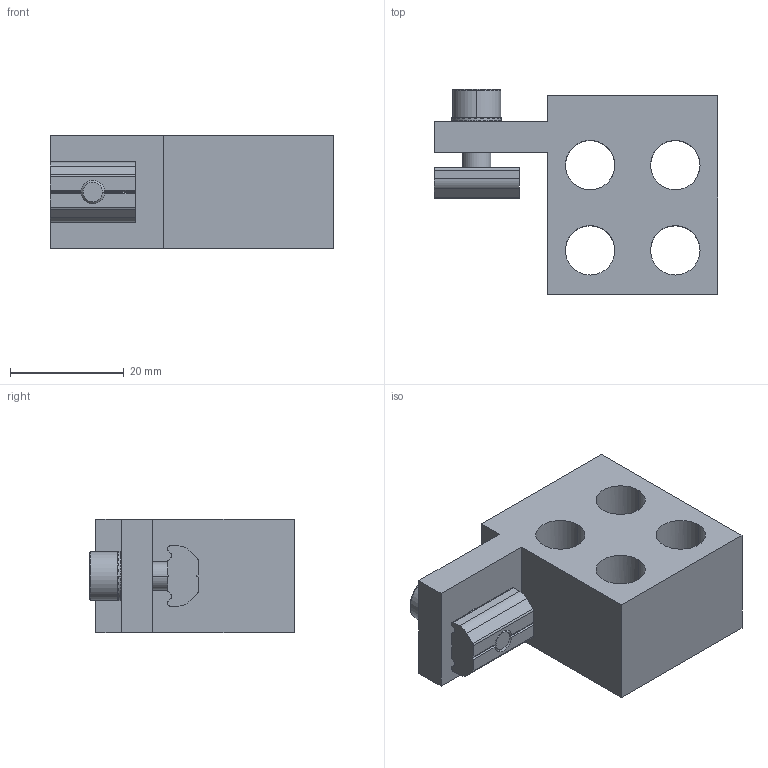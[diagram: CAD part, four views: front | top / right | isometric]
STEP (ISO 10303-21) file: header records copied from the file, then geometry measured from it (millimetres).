
FILE_DESCRIPTION (( 'STEP AP214' ), '1' );
FILE_NAME ('SMB-D5G18.STEP', '2019-11-06T03:21:39', ( '微软用户' ), ( '微软中国' ), 'SwSTEP 2.0', 'SolidWorks 2016', '' );
FILE_SCHEMA (( 'AUTOMOTIVE_DESIGN' ));
Length unit declared in the file: millimetre
Products named in the file (1): SMB-D5G18
Bounding box: 50 x 36.1 x 20 mm (x, y, z)
Volume: 17594.8 mm3; surface area: 9150.3 mm2
Topology: 4 solids, 4 shells, 290 faces, 842 edges, 552 vertices
Faces by surface type: plane 236, cylinder 50, cone 2, bspline 2
Entity records: 13047 total; most frequent: CARTESIAN_POINT 1988, ORIENTED_EDGE 1684, DIRECTION 1634, EDGE_CURVE 842, VERTEX_POINT 552, AXIS2_PLACEMENT_3D 547, LINE 540, VECTOR 540
